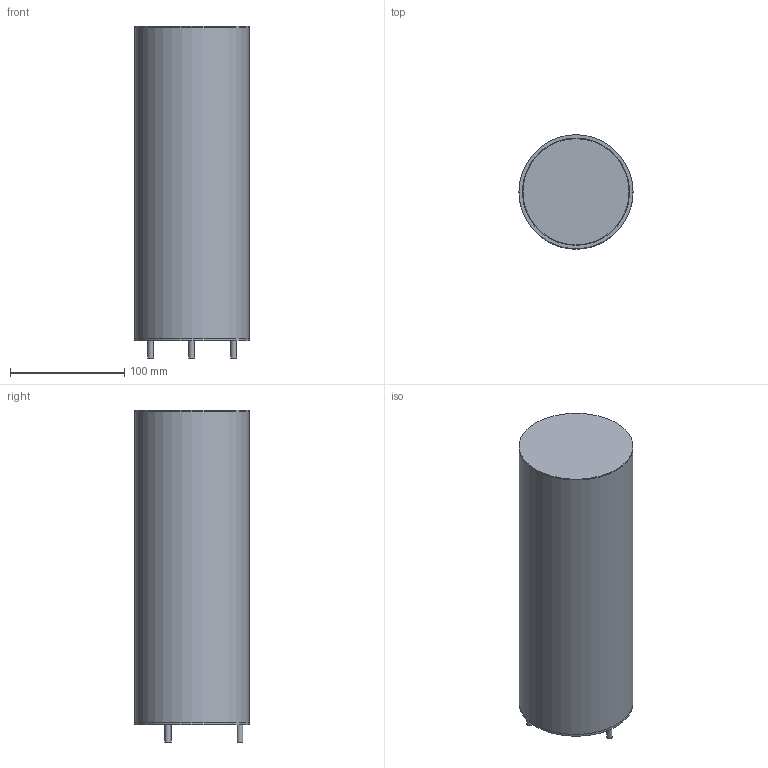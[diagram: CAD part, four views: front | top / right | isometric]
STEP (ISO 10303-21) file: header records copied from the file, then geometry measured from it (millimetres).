
FILE_DESCRIPTION(/* description */ (''),/* implementation_level */ '2;1');
FILE_NAME(/* name */ 'Light Stick Sahara 29.step',/* time_stamp */ '2022-12-22T11:30:45+01:00',/* author */ (''),/* organization */ (''),/* preprocessor_version */ 'ST-DEVELOPER v19.2',/* originating_system */ 'Autodesk Translation Framework v11.17.0.187',/* authorisation */ '');
FILE_SCHEMA (('AUTOMOTIVE_DESIGN { 1 0 10303 214 3 1 1 }'));
Length unit declared in the file: millimetre
Products named in the file (4): Light Stick Sahara 29; Fuß Light Star/Stick Modell; Rohr Light Stick Sahara 29 mit Deckel; Deckel Light Stick
Assembly tree (3 placements, depth 3):
  Light Stick Sahara 29
    Fuß Light Star/Stick Modell
    Rohr Light Stick Sahara 29 mit Deckel
      Deckel Light Stick
Bounding box: 100 x 100 x 291 mm (x, y, z)
Volume: 446641.5 mm3; surface area: 208304 mm2
Topology: 3 solids, 3 shells, 21 faces, 29 edges, 19 vertices
Faces by surface type: plane 11, cylinder 9, cone 1
Full cylindrical faces by diameter (mm): 5 x3, 93 x1, 94 x2, 100 x3
Entity records: 585 total; most frequent: DIRECTION 104, CARTESIAN_POINT 76, ORIENTED_EDGE 58, AXIS2_PLACEMENT_3D 47, EDGE_CURVE 29, EDGE_LOOP 28, FACE_OUTER_BOUND 21, ADVANCED_FACE 21
